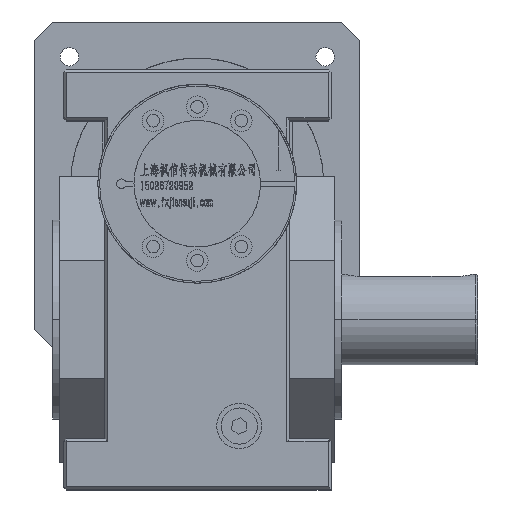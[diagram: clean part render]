
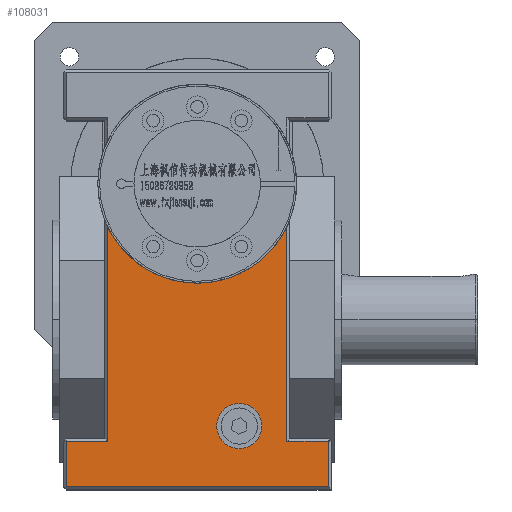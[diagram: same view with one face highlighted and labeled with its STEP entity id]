
A CAD part, top view. The second image highlights one B-rep face of the part: STEP entity #108031.
In plain terms, the highlighted planar face has unit normal (0, 0, 1).
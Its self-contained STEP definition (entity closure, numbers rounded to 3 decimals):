
#7274 = LINE ( 'NONE', #76664, #56983 ) ;
#8459 = CARTESIAN_POINT ( 'NONE',  ( -49.5, 51.026, 104. ) ) ;
#8548 = VERTEX_POINT ( 'NONE', #109543 ) ;
#11296 = EDGE_CURVE ( 'NONE', #109124, #54150, #12270, .T. ) ;
#12270 = LINE ( 'NONE', #82271, #24830 ) ;
#14610 = VERTEX_POINT ( 'NONE', #40433 ) ;
#15906 = VECTOR ( 'NONE', #104769, 1000. ) ;
#17780 = EDGE_CURVE ( 'NONE', #14610, #8548, #74857, .T. ) ;
#17991 = DIRECTION ( 'NONE',  ( 1., 0., 0. ) ) ;
#18312 = CIRCLE ( 'NONE', #29318, 12.5 ) ;
#18380 = VECTOR ( 'NONE', #46806, 1000. ) ;
#19525 = VERTEX_POINT ( 'NONE', #44156 ) ;
#19708 = EDGE_CURVE ( 'NONE', #19525, #24803, #18312, .T. ) ;
#20686 = EDGE_CURVE ( 'NONE', #54150, #75201, #87016, .T. ) ;
#20727 = DIRECTION ( 'NONE',  ( 0., 0., 1. ) ) ;
#24582 = ORIENTED_EDGE ( 'NONE', *, *, #20686, .T. ) ;
#24737 = EDGE_CURVE ( 'NONE', #44779, #37205, #7274, .T. ) ;
#24803 = VERTEX_POINT ( 'NONE', #98264 ) ;
#24830 = VECTOR ( 'NONE', #109179, 1000. ) ;
#25144 = CARTESIAN_POINT ( 'NONE',  ( -72.5, -67.5, 104. ) ) ;
#25596 = ORIENTED_EDGE ( 'NONE', *, *, #47037, .T. ) ;
#25994 = PLANE ( 'NONE',  #29444 ) ;
#27435 = VECTOR ( 'NONE', #82246, 1000. ) ;
#28113 = EDGE_CURVE ( 'NONE', #24803, #19525, #101247, .T. ) ;
#29318 = AXIS2_PLACEMENT_3D ( 'NONE', #47540, #82539, #37782 ) ;
#29444 = AXIS2_PLACEMENT_3D ( 'NONE', #69056, #95424, #41520 ) ;
#30332 = ORIENTED_EDGE ( 'NONE', *, *, #72276, .F. ) ;
#32900 = FACE_BOUND ( 'NONE', #85604, .T. ) ;
#33095 = AXIS2_PLACEMENT_3D ( 'NONE', #69099, #51888, #69650 ) ;
#34035 = FACE_OUTER_BOUND ( 'NONE', #44198, .T. ) ;
#37205 = VERTEX_POINT ( 'NONE', #91586 ) ;
#37782 = DIRECTION ( 'NONE',  ( 1., 0., 0. ) ) ;
#38503 = DIRECTION ( 'NONE',  ( 1., 0., 0. ) ) ;
#39591 = ORIENTED_EDGE ( 'NONE', *, *, #11296, .T. ) ;
#40433 = CARTESIAN_POINT ( 'NONE',  ( 49.5, -67.5, 104. ) ) ;
#40851 = ORIENTED_EDGE ( 'NONE', *, *, #24737, .T. ) ;
#41172 = ORIENTED_EDGE ( 'NONE', *, *, #85508, .T. ) ;
#41520 = DIRECTION ( 'NONE',  ( -1., 0., 0. ) ) ;
#44156 = CARTESIAN_POINT ( 'NONE',  ( 35.762, -59., 104. ) ) ;
#44198 = EDGE_LOOP ( 'NONE', ( #25596, #40851, #41172, #69149, #30332, #80661, #39591, #24582 ) ) ;
#44779 = VERTEX_POINT ( 'NONE', #59416 ) ;
#45502 = CARTESIAN_POINT ( 'NONE',  ( -49.5, -67.5, 104. ) ) ;
#46270 = EDGE_CURVE ( 'NONE', #99944, #109124, #95284, .T. ) ;
#46806 = DIRECTION ( 'NONE',  ( 0., 1., 0. ) ) ;
#47037 = EDGE_CURVE ( 'NONE', #75201, #44779, #96565, .T. ) ;
#47366 = CARTESIAN_POINT ( 'NONE',  ( 49.5, 54.409, 104. ) ) ;
#47540 = CARTESIAN_POINT ( 'NONE',  ( 23.262, -59., 104. ) ) ;
#51888 = DIRECTION ( 'NONE',  ( 0., 0., 1. ) ) ;
#53550 = CARTESIAN_POINT ( 'NONE',  ( 74., -92.5, 104. ) ) ;
#54150 = VERTEX_POINT ( 'NONE', #25144 ) ;
#56983 = VECTOR ( 'NONE', #103053, 1000. ) ;
#57056 = AXIS2_PLACEMENT_3D ( 'NONE', #90150, #20727, #38503 ) ;
#59416 = CARTESIAN_POINT ( 'NONE',  ( 72.5, -92.5, 104. ) ) ;
#63332 = CARTESIAN_POINT ( 'NONE',  ( 74., -67.5, 104. ) ) ;
#69056 = CARTESIAN_POINT ( 'NONE',  ( 74., 138., 104. ) ) ;
#69099 = CARTESIAN_POINT ( 'NONE',  ( 0., 75., 104. ) ) ;
#69149 = ORIENTED_EDGE ( 'NONE', *, *, #17780, .T. ) ;
#69650 = DIRECTION ( 'NONE',  ( 0., 1., 0. ) ) ;
#72276 = EDGE_CURVE ( 'NONE', #99944, #8548, #102798, .T. ) ;
#74857 = LINE ( 'NONE', #47366, #18380 ) ;
#75201 = VERTEX_POINT ( 'NONE', #91147 ) ;
#76664 = CARTESIAN_POINT ( 'NONE',  ( 72.5, -66., 104. ) ) ;
#78344 = VECTOR ( 'NONE', #104998, 1000. ) ;
#80661 = ORIENTED_EDGE ( 'NONE', *, *, #46270, .T. ) ;
#82246 = DIRECTION ( 'NONE',  ( -1., 0., 0. ) ) ;
#82271 = CARTESIAN_POINT ( 'NONE',  ( -74., -67.5, 104. ) ) ;
#82539 = DIRECTION ( 'NONE',  ( 0., 0., 1. ) ) ;
#85508 = EDGE_CURVE ( 'NONE', #37205, #14610, #98872, .T. ) ;
#85604 = EDGE_LOOP ( 'NONE', ( #107406, #94106 ) ) ;
#87016 = LINE ( 'NONE', #89266, #15906 ) ;
#87518 = VECTOR ( 'NONE', #17991, 1000. ) ;
#89266 = CARTESIAN_POINT ( 'NONE',  ( -72.5, 138., 104. ) ) ;
#90150 = CARTESIAN_POINT ( 'NONE',  ( 23.262, -59., 104. ) ) ;
#91147 = CARTESIAN_POINT ( 'NONE',  ( -72.5, -92.5, 104. ) ) ;
#91586 = CARTESIAN_POINT ( 'NONE',  ( 72.5, -67.5, 104. ) ) ;
#94106 = ORIENTED_EDGE ( 'NONE', *, *, #28113, .F. ) ;
#95284 = LINE ( 'NONE', #103865, #78344 ) ;
#95424 = DIRECTION ( 'NONE',  ( 0., 0., -1. ) ) ;
#96565 = LINE ( 'NONE', #53550, #87518 ) ;
#98264 = CARTESIAN_POINT ( 'NONE',  ( 10.762, -59., 104. ) ) ;
#98872 = LINE ( 'NONE', #63332, #27435 ) ;
#99944 = VERTEX_POINT ( 'NONE', #8459 ) ;
#101247 = CIRCLE ( 'NONE', #57056, 12.5 ) ;
#102798 = CIRCLE ( 'NONE', #33095, 55. ) ;
#103053 = DIRECTION ( 'NONE',  ( 0., 1., 0. ) ) ;
#103865 = CARTESIAN_POINT ( 'NONE',  ( -49.5, -66., 104. ) ) ;
#104769 = DIRECTION ( 'NONE',  ( 0., -1., 0. ) ) ;
#104998 = DIRECTION ( 'NONE',  ( 0., -1., 0. ) ) ;
#107406 = ORIENTED_EDGE ( 'NONE', *, *, #19708, .F. ) ;
#108031 = ADVANCED_FACE ( 'NONE', ( #32900, #34035 ), #25994, .F. ) ;
#109124 = VERTEX_POINT ( 'NONE', #45502 ) ;
#109179 = DIRECTION ( 'NONE',  ( -1., 0., 0. ) ) ;
#109543 = CARTESIAN_POINT ( 'NONE',  ( 49.5, 51.026, 104. ) ) ;
